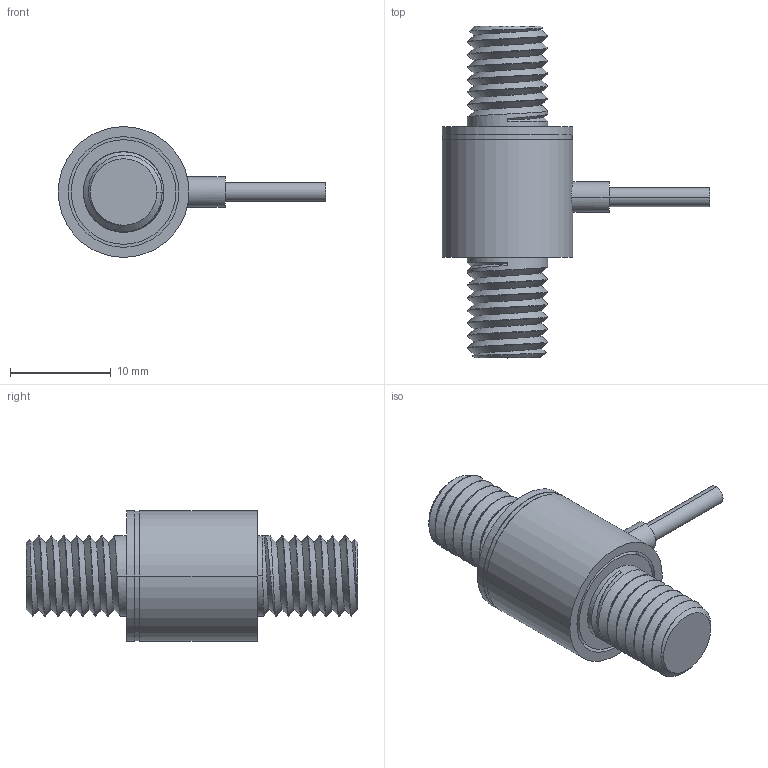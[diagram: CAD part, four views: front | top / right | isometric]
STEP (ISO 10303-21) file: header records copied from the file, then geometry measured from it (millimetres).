
FILE_DESCRIPTION (( 'STEP AP203' ), '1' );
FILE_NAME ('LCR04.STEP', '2024-07-16T04:25:03', ( '' ), ( '' ), 'SwSTEP 2.0', 'SolidWorks 2019', '' );
FILE_SCHEMA (( 'CONFIG_CONTROL_DESIGN' ));
Length unit declared in the file: millimetre
Products named in the file (1): LCR04
Bounding box: 26.6 x 33 x 13 mm (x, y, z)
Volume: 2522.2 mm3; surface area: 2336.7 mm2
Topology: 1 solids, 1 shells, 66 faces, 273 edges, 216 vertices
Faces by surface type: cylinder 44, plane 12, cone 6, bspline 4
Entity records: 7602 total; most frequent: CARTESIAN_POINT 5522, ORIENTED_EDGE 546, EDGE_CURVE 273, DIRECTION 257, VERTEX_POINT 216, B_SPLINE_CURVE_WITH_KNOTS 180, AXIS2_PLACEMENT_3D 101, EDGE_LOOP 73
